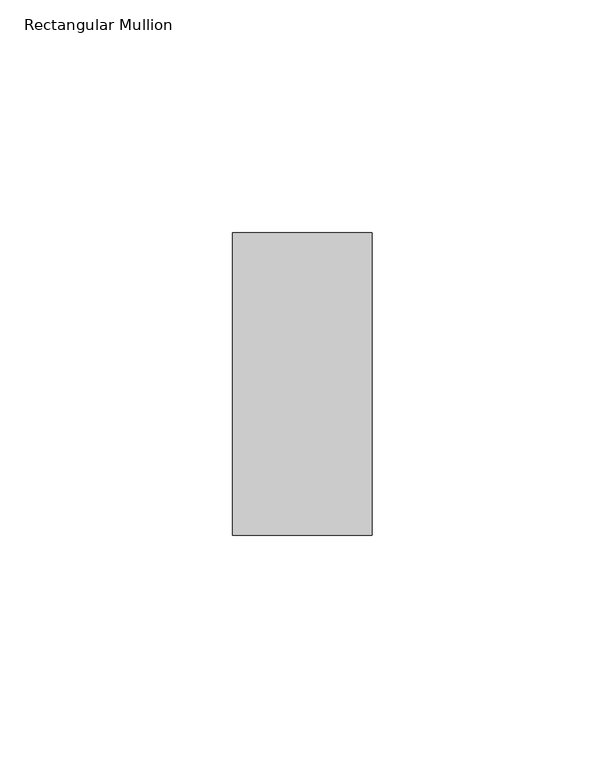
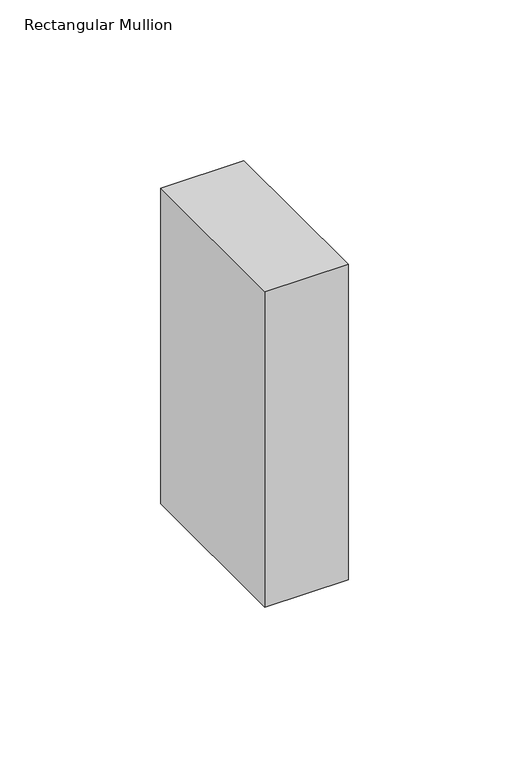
"""IFC4 building model written with IfcOpenShell, lengths in millimetres: member geometry, Rectangular Mullion : Batten_Timber_Modinex_Austratus_Grid_Fascia_30x65_AlaskanYellowCedar."""

from ifc_helpers import new_model, si_unit, frame, origin, place, context, project, spatial, polyline, outline, extrude, source, transform, mapped, element, save


def rectangular_mullion_d4c9a775(model_context):
    return source(origin(), model_context, "Body", "SweptSolid", [
        extrude(outline(polyline([(0.0, 65.0), (0.0, 0.0), (-30.0, 0.0), (-30.0, 65.0), (0.0, 65.0)])), frame((0.0, 0.0, -120.0), z_axis=(0.0, 0.0, 1.0), x_axis=(1.0, 0.0, 0.0)), (0.0, 0.0, 1.0), 120.0),
    ])


if __name__ == "__main__":
    model = new_model("IFC4")
    model_context = context("Model", 3, world=origin())
    ifc_project = project(units=[si_unit("LENGTHUNIT", "METRE", prefix="MILLI")], contexts=[model_context])
    site = spatial("IfcSite", under=ifc_project)
    building = spatial("IfcBuilding", under=site)
    placement = place(None, origin())
    rectangular_mullion_shape = rectangular_mullion_d4c9a775(model_context)
    element("IfcMember", 1, ObjectType="Rectangular Mullion : Batten_Timber_Modinex_Austratus_Grid_Fascia_30x65_AlaskanYellowCedar", at=placement, inside=building, context=model_context, shape_type="MappedRepresentation", body=[
        mapped(rectangular_mullion_shape, transform((0.0, 0.0, 0.0), x_axis=(1.0, 0.0, 0.0), y_axis=(0.0, 1.0, 0.0), z_axis=(0.0, 0.0, 1.0))),
    ])
    save(model, "model.ifc")
